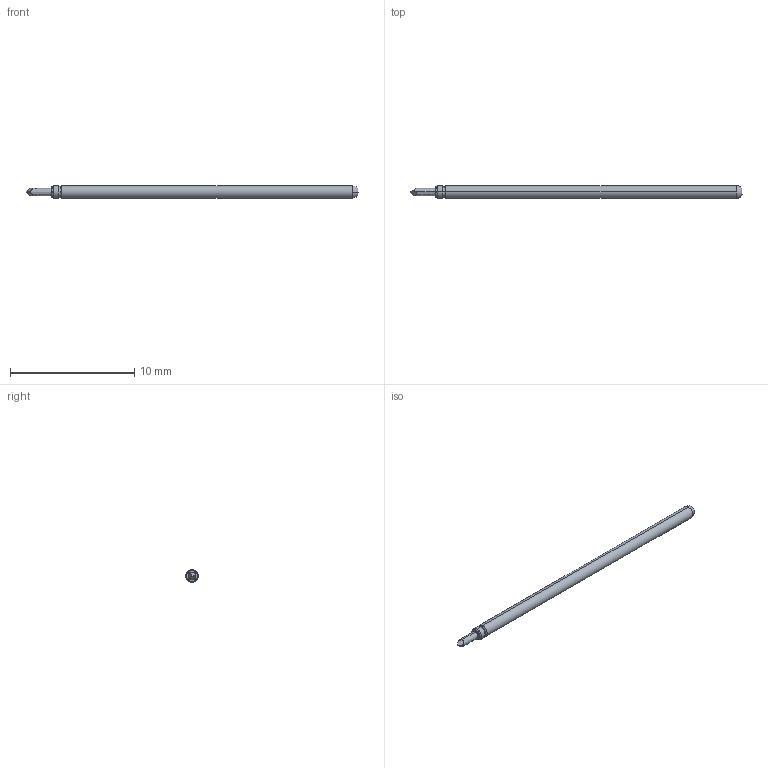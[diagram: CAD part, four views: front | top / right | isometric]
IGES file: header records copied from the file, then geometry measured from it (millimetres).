
Start section: SolidWorks IGES file using analytic representation for surfaces
Global section: file name: Z:\probe solid model mockups\Solidworks models\Parts\LFRE-1T30 FULL.IGS; native system: SolidWorks 2016; preprocessor: SolidWorks 2016; author: mlee; date: 180927.164024; units: inch
Bounding box: 26.67 x 1.02 x 1.02 mm (x, y, z)
Surface area: 82.9 mm2 (no closed solid volume)
Topology: 0 solids, 0 shells, 21 faces, 154 edges, 154 vertices
Faces by surface type: revolution 12, bspline 9
